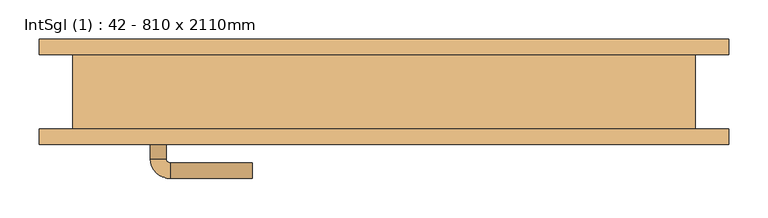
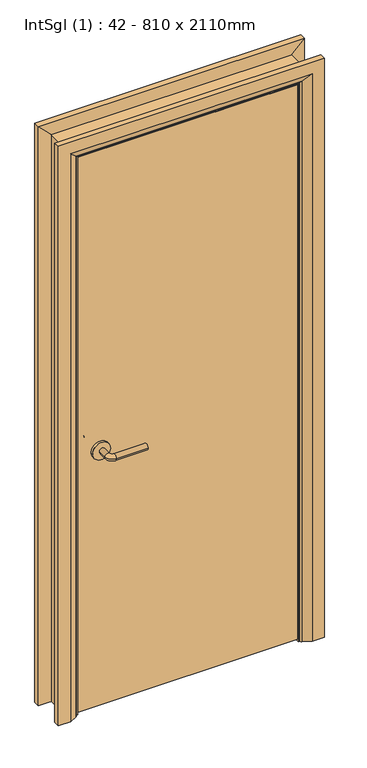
"""IFC4 building model written with IfcOpenShell, lengths in millimetres: door geometry, IntSgl (1) : 42 - 810 x 2110mm."""

from ifc_helpers import new_model, si_unit, point, frame, frame_2d, origin, place, context, project, spatial, polyline, circle_curve, ellipse_curve, trimmed, segment, composite_curve, outline, extrude, faceted_brep, source, transform, mapped, element, save
from ifc_brep_helpers import plane_surface, cylinder_surface, revolved_surface, advanced_brep


def intsgl_1_42_810_x_2110mm_b688a093(model_context):
    return source(origin(), model_context, "Body", "SolidModel", [
        advanced_brep(
        [(-298.0, -1.5, 900.0), (-278.0, -1.5, 900.0), (-298.0, 28.5, 900.0), (-278.0, 28.5, 900.0), (-273.0, 33.5, 900.0), (-273.0, 53.5, 900.0), (-168.0, 53.5, 900.0), (-168.0, 33.5, 900.0)],
        [
            (0, 1, circle_curve(frame((-288.0, -1.5, 900.0), z_axis=(0.0, -1.0, 0.0), x_axis=(1.0, 0.0, 0.0)), 10.0)),
            (1, 0, circle_curve(frame((-288.0, -1.5, 900.0), z_axis=(0.0, -1.0, 0.0), x_axis=(1.0, 0.0, 0.0)), 10.0)),
            (0, 2),
            (2, 3, circle_curve(frame((-288.0, 28.5, 900.0), z_axis=(0.0, -1.0, 0.0), x_axis=(1.0, 0.0, 0.0)), 10.0)),
            (3, 1),
            (3, 2, circle_curve(frame((-288.0, 28.5, 900.0), z_axis=(0.0, -1.0, 0.0), x_axis=(1.0, 0.0, 0.0)), 10.0)),
            (4, 3, circle_curve(frame((-273.0, 28.5, 900.0), z_axis=(0.0, 0.0, 1.0), x_axis=(-1.0, 0.0, 0.0)), 5.0)),
            (2, 5, circle_curve(frame((-273.0, 28.5, 900.0), z_axis=(0.0, 0.0, -1.0), x_axis=(-1.0, 0.0, 0.0)), 25.0)),
            (5, 4, circle_curve(frame((-273.0, 43.5, 900.0), z_axis=(-1.0, 0.0, 0.0), x_axis=(0.0, -1.0, 0.0)), 10.0)),
            (4, 5, circle_curve(frame((-273.0, 43.5, 900.0), z_axis=(-1.0, 0.0, 0.0), x_axis=(0.0, -1.0, 0.0)), 10.0)),
            (6, 7, circle_curve(frame((-168.0, 43.5, 900.0), z_axis=(1.0, 0.0, 0.0), x_axis=(0.0, -1.0, 0.0)), 10.0)),
            (7, 6, circle_curve(frame((-168.0, 43.5, 900.0), z_axis=(1.0, 0.0, 0.0), x_axis=(0.0, -1.0, 0.0)), 10.0)),
            (5, 6),
            (7, 4),
        ],
        [
            plane_surface(frame((-288.0, -1.5, 900.0), z_axis=(0.0, -1.0, 0.0), x_axis=(0.0, 0.0, 1.0))),
            cylinder_surface(frame((-288.0, -1.5, 900.0), z_axis=(0.0, -1.0, 0.0), x_axis=(1.0, 0.0, 0.0)), 10.0),
            revolved_surface(trimmed(ellipse_curve(frame((-288.0, 28.5, 900.0), z_axis=(0.0, -1.0, 0.0), x_axis=(1.0, 0.0, 0.0)), 10.0, 10.0), [point((-298.0, 28.5, 900.0))], [point((-278.0, 28.5, 900.0))], True, "CARTESIAN"), (-273.0, 28.5, 900.0), (0.0, 0.0, -1.0)),
            revolved_surface(trimmed(ellipse_curve(frame((-288.0, 28.5, 900.0), z_axis=(0.0, -1.0, 0.0), x_axis=(1.0, 0.0, 0.0)), 10.0, 10.0), [point((-278.0, 28.5, 900.0))], [point((-298.0, 28.5, 900.0))], True, "CARTESIAN"), (-273.0, 28.5, 900.0), (0.0, 0.0, -1.0)),
            plane_surface(frame((-168.0, 43.5, 900.0), z_axis=(1.0, 0.0, 0.0), x_axis=(0.0, 0.0, 1.0))),
            cylinder_surface(frame((-273.0, 43.5, 900.0), z_axis=(-1.0, 0.0, 0.0), x_axis=(0.0, -1.0, 0.0)), 10.0),
        ],
        [
            (0, [[1, 2]]),
            (1, [[-1, 3, 4, 5]]),
            (1, [[-2, -5, 6, -3]]),
            (2, [[7, -4, 8, 9]]),
            (3, [[-8, -6, -7, 10]]),
            (4, [[11, 12]]),
            (5, [[-9, 13, -12, 14]]),
            (5, [[-10, -14, -11, -13]]),
        ],
    ),
        extrude(outline(composite_curve([segment(trimmed(circle_curve(frame_2d((900.0, -290.5)), 30.0), [point((900.0, -320.5))], [point((900.0, -260.5))], False, "CARTESIAN"), True, "CONTINUOUS"), segment(trimmed(circle_curve(frame_2d((900.0, -290.5)), 30.0), [point((900.0, -260.5))], [point((900.0, -320.5))], False, "CARTESIAN"), True, "CONTINUOUS")], self_intersect=False)), frame((0.0, -9.5, 0.0), z_axis=(0.0, 1.0, 0.0), x_axis=(0.0, 0.0, 1.0)), (0.0, 0.0, 1.0), 8.0),
        advanced_brep(
        [(-298.0, -55.5, 900.0), (-278.0, -55.5, 900.0), (-278.0, -85.5, 900.0), (-298.0, -85.5, 900.0), (-273.0, -90.5, 900.0), (-273.0, -110.5, 900.0), (-168.0, -110.5, 900.0), (-168.0, -90.5, 900.0)],
        [
            (0, 1, circle_curve(frame((-288.0, -55.5, 900.0), z_axis=(0.0, 1.0, 0.0), x_axis=(1.0, 0.0, 0.0)), 10.0)),
            (1, 0, circle_curve(frame((-288.0, -55.5, 900.0), z_axis=(0.0, 1.0, 0.0), x_axis=(1.0, 0.0, 0.0)), 10.0)),
            (1, 2),
            (2, 3, circle_curve(frame((-288.0, -85.5, 900.0), z_axis=(0.0, 1.0, 0.0), x_axis=(1.0, 0.0, 0.0)), 10.0)),
            (3, 0),
            (3, 2, circle_curve(frame((-288.0, -85.5, 900.0), z_axis=(0.0, 1.0, 0.0), x_axis=(1.0, 0.0, 0.0)), 10.0)),
            (4, 5, circle_curve(frame((-273.0, -100.5, 900.0), z_axis=(-1.0, 0.0, 0.0), x_axis=(0.0, 1.0, 0.0)), 10.0)),
            (5, 3, circle_curve(frame((-273.0, -85.5, 900.0), z_axis=(0.0, 0.0, -1.0), x_axis=(-1.0, 0.0, 0.0)), 25.0)),
            (2, 4, circle_curve(frame((-273.0, -85.5, 900.0), z_axis=(0.0, 0.0, 1.0), x_axis=(-1.0, 0.0, 0.0)), 5.0)),
            (5, 4, circle_curve(frame((-273.0, -100.5, 900.0), z_axis=(-1.0, 0.0, 0.0), x_axis=(0.0, 1.0, 0.0)), 10.0)),
            (6, 7, circle_curve(frame((-168.0, -100.5, 900.0), z_axis=(1.0, 0.0, 0.0), x_axis=(0.0, 1.0, 0.0)), 10.0)),
            (7, 6, circle_curve(frame((-168.0, -100.5, 900.0), z_axis=(1.0, 0.0, 0.0), x_axis=(0.0, 1.0, 0.0)), 10.0)),
            (4, 7),
            (6, 5),
        ],
        [
            plane_surface(frame((-288.0, -55.5, 900.0), z_axis=(0.0, 1.0, 0.0), x_axis=(0.0, 0.0, 1.0))),
            cylinder_surface(frame((-288.0, -55.5, 900.0), z_axis=(0.0, 1.0, 0.0), x_axis=(1.0, 0.0, 0.0)), 10.0),
            revolved_surface(trimmed(ellipse_curve(frame((-288.0, -85.5, 900.0), z_axis=(0.0, -1.0, 0.0), x_axis=(1.0, 0.0, 0.0)), 10.0, 10.0), [point((-298.0, -85.5, 900.0))], [point((-278.0, -85.5, 900.0))], True, "CARTESIAN"), (-273.0, -85.5, 900.0), (0.0, 0.0, -1.0)),
            revolved_surface(trimmed(ellipse_curve(frame((-288.0, -85.5, 900.0), z_axis=(0.0, -1.0, 0.0), x_axis=(1.0, 0.0, 0.0)), 10.0, 10.0), [point((-278.0, -85.5, 900.0))], [point((-298.0, -85.5, 900.0))], True, "CARTESIAN"), (-273.0, -85.5, 900.0), (0.0, 0.0, -1.0)),
            plane_surface(frame((-168.0, -100.5, 900.0), z_axis=(1.0, 0.0, 0.0), x_axis=(0.0, 0.0, 1.0))),
            cylinder_surface(frame((-273.0, -100.5, 900.0), z_axis=(-1.0, 0.0, 0.0), x_axis=(0.0, 1.0, 0.0)), 10.0),
        ],
        [
            (0, [[1, 2]]),
            (1, [[3, 4, 5, -2]]),
            (1, [[-5, 6, -3, -1]]),
            (2, [[7, 8, -4, 9]]),
            (3, [[10, -9, -6, -8]]),
            (4, [[11, 12]]),
            (5, [[13, -11, 14, -7]]),
            (5, [[-14, -12, -13, -10]]),
        ],
    ),
        extrude(outline(composite_curve([segment(trimmed(circle_curve(frame_2d((900.0, -290.5)), 30.0), [point((900.0, -320.5))], [point((900.0, -260.5))], False, "CARTESIAN"), True, "CONTINUOUS"), segment(trimmed(circle_curve(frame_2d((900.0, -290.5)), 30.0), [point((900.0, -260.5))], [point((900.0, -320.5))], False, "CARTESIAN"), True, "CONTINUOUS")], self_intersect=False)), frame((0.0, -55.5, 0.0), z_axis=(0.0, 1.0, 0.0), x_axis=(0.0, 0.0, 1.0)), (0.0, 0.0, 1.0), 8.0),
        extrude(outline(polyline([(363.0, -9.5), (363.0, -47.5), (-363.0, -47.5), (-363.0, -9.5), (363.0, -9.5)])), frame((0.0, 0.0, 8.0), z_axis=(0.0, 0.0, 1.0), x_axis=(1.0, 0.0, 0.0)), (0.0, 0.0, 1.0), 1939.0),
        advanced_brep(
        [(440.0, -67.5, 0.0), (400.0, -67.5, 0.0), (374.0, -53.5, 0.0), (370.0, -47.5, 0.0), (440.0, -47.5, 0.0), (440.0, -47.5, 2024.0), (440.0, -67.5, 2024.0), (370.0, -47.5, 1954.0), (-370.0, -47.5, 1954.0), (-370.0, -47.5, 0.0), (-440.0, -47.5, 0.0), (-440.0, -47.5, 2024.0), (374.0, -53.5, 1958.0), (400.0, -67.5, 1984.0), (-440.0, -67.5, 2024.0), (-440.0, -67.5, 0.0), (-400.0, -67.5, 0.0), (-400.0, -67.5, 1984.0), (-374.0, -53.5, 1958.0), (-374.0, -53.5, 0.0)],
        [
            (0, 1),
            (1, 2),
            (2, 3, circle_curve(frame((378.0, -46.5, 0.0), z_axis=(0.0, 0.0, -1.0), x_axis=(1.0, 0.0, 0.0)), 8.0622577)),
            (3, 4),
            (4, 0),
            (4, 5),
            (5, 6),
            (6, 0),
            (3, 7),
            (7, 8),
            (8, 9),
            (9, 10),
            (10, 11),
            (11, 5),
            (2, 12),
            (12, 7, ellipse_curve(frame((378.0, -46.5, 1962.0), z_axis=(0.7071067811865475, 0.0, -0.7071067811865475), x_axis=(-0.7071067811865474, 0.0, -0.7071067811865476)), 11.4017543, 8.0622577)),
            (1, 13),
            (13, 12),
            (6, 14),
            (14, 15),
            (15, 16),
            (16, 17),
            (17, 13),
            (11, 14),
            (12, 18),
            (18, 8, ellipse_curve(frame((-378.0, -46.5, 1962.0), z_axis=(0.7071067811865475, 0.0, 0.7071067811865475), x_axis=(0.7071067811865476, 0.0, -0.7071067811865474)), 11.4017543, 8.0622577)),
            (17, 18),
            (15, 10),
            (9, 19, circle_curve(frame((-378.0, -46.5, 0.0), z_axis=(0.0, 0.0, -1.0), x_axis=(-1.0, 0.0, 0.0)), 8.0622577)),
            (19, 16),
            (18, 19),
        ],
        [
            plane_surface(frame((370.0, -47.5, 0.0), z_axis=(0.0, 0.0, -1.0), x_axis=(0.0, 1.0, 0.0))),
            plane_surface(frame((440.0, -67.5, 0.0), z_axis=(1.0, 0.0, 0.0), x_axis=(0.0, 0.0, 1.0))),
            plane_surface(frame((440.0, -47.5, 0.0), z_axis=(0.0, 1.0, 0.0), x_axis=(0.0, 0.0, 1.0))),
            cylinder_surface(frame((378.0, -46.5, 0.0), z_axis=(0.0, 0.0, -1.0), x_axis=(1.0, 0.0, 0.0)), 8.0622577),
            plane_surface(frame((374.0, -53.5, 0.0), z_axis=(-0.4740998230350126, -0.880471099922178, 0.0), x_axis=(0.0, 0.0, 1.0))),
            plane_surface(frame((400.0, -67.5, 0.0), z_axis=(0.0, -1.0, 0.0), x_axis=(0.0, 0.0, 1.0))),
            plane_surface(frame((440.0, -67.5, 2024.0), z_axis=(0.0, 0.0, 1.0), x_axis=(-1.0, 0.0, 0.0))),
            cylinder_surface(frame((370.0, -46.5, 1962.0), z_axis=(1.0, 0.0, 0.0), x_axis=(0.0, 0.0, 1.0)), 8.0622577),
            plane_surface(frame((374.0, -53.5, 1958.0), z_axis=(0.0, -0.8804710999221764, -0.4740998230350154), x_axis=(-1.0, 0.0, 0.0))),
            plane_surface(frame((-370.0, -47.5, 0.0), z_axis=(0.0, 0.0, -1.0), x_axis=(0.0, 1.0, 0.0))),
            plane_surface(frame((-440.0, -67.5, 2024.0), z_axis=(-1.0, 0.0, 0.0), x_axis=(0.0, 0.0, -1.0))),
            cylinder_surface(frame((-378.0, -46.5, 1954.0), z_axis=(0.0, 0.0, 1.0), x_axis=(-1.0, 0.0, 0.0)), 8.0622577),
            plane_surface(frame((-374.0, -53.5, 1958.0), z_axis=(0.47409982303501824, -0.8804710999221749, 0.0), x_axis=(0.0, 0.0, -1.0))),
        ],
        [
            (0, [[1, 2, 3, 4, 5]]),
            (1, [[6, 7, 8, -5]]),
            (2, [[9, 10, 11, 12, 13, 14, -6, -4]]),
            (3, [[15, 16, -9, -3]]),
            (4, [[17, 18, -15, -2]]),
            (5, [[-8, 19, 20, 21, 22, 23, -17, -1]]),
            (6, [[-14, 24, -19, -7]]),
            (7, [[25, 26, -10, -16]]),
            (8, [[-23, 27, -25, -18]]),
            (9, [[28, -12, 29, 30, -21]]),
            (10, [[-13, -28, -20, -24]]),
            (11, [[31, -29, -11, -26]]),
            (12, [[-22, -30, -31, -27]]),
        ],
    ),
        extrude(outline(polyline([(0.0, -346.0), (1930.0, -346.0), (1930.0, 346.0), (0.0, 346.0), (0.0, 365.0), (1949.0, 365.0), (1949.0, -365.0), (0.0, -365.0), (0.0, -346.0)])), frame((0.0, -7.5, 0.0), z_axis=(0.0, 1.0, 0.0), x_axis=(0.0, 0.0, 1.0)), (0.0, 0.0, 1.0), 32.0),
        advanced_brep(
        [(-440.0, 67.5, 0.0), (-400.0, 67.5, 0.0), (-374.0, 53.5, 0.0), (-370.0, 47.5, 0.0), (-440.0, 47.5, 0.0), (-440.0, 47.5, 2024.0), (-440.0, 67.5, 2024.0), (-370.0, 47.5, 1954.0), (-374.0, 53.5, 1958.0), (-400.0, 67.5, 1984.0), (440.0, 47.5, 2024.0), (440.0, 67.5, 2024.0), (370.0, 47.5, 1954.0), (374.0, 53.5, 1958.0), (400.0, 67.5, 1984.0), (440.0, 67.5, 0.0), (440.0, 47.5, 0.0), (370.0, 47.5, 0.0), (374.0, 53.5, 0.0), (400.0, 67.5, 0.0)],
        [
            (0, 1),
            (1, 2),
            (2, 3, circle_curve(frame((-378.0, 46.5, 0.0), z_axis=(0.0, 0.0, -1.0), x_axis=(-1.0, 0.0, 0.0)), 8.0622577)),
            (3, 4),
            (4, 0),
            (4, 5),
            (5, 6),
            (6, 0),
            (3, 7),
            (7, 5),
            (2, 8),
            (8, 7, ellipse_curve(frame((-378.0, 46.5, 1962.0), z_axis=(-0.7071067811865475, 0.0, -0.7071067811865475), x_axis=(0.7071067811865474, 0.0, -0.7071067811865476)), 11.4017543, 8.0622577)),
            (1, 9),
            (9, 8),
            (6, 9),
            (5, 10),
            (10, 11),
            (11, 6),
            (7, 12),
            (12, 10),
            (8, 13),
            (13, 12, ellipse_curve(frame((378.0, 46.5, 1962.0), z_axis=(-0.7071067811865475, 0.0, 0.7071067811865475), x_axis=(-0.7071067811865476, 0.0, -0.7071067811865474)), 11.4017543, 8.0622577)),
            (9, 14),
            (14, 13),
            (11, 14),
            (15, 16),
            (16, 17),
            (17, 18, circle_curve(frame((378.0, 46.5, 0.0), z_axis=(0.0, 0.0, -1.0), x_axis=(1.0, 0.0, 0.0)), 8.0622577)),
            (18, 19),
            (19, 15),
            (10, 16),
            (15, 11),
            (12, 17),
            (13, 18),
            (14, 19),
        ],
        [
            plane_surface(frame((-370.0, 120.3010989, 0.0), z_axis=(0.0, 0.0, -1.0), x_axis=(1.0, 0.0, 0.0))),
            plane_surface(frame((-440.0, 67.5, 0.0), z_axis=(-1.0, 0.0, 0.0), x_axis=(0.0, 0.0, 1.0))),
            plane_surface(frame((-440.0, 47.5, 0.0), z_axis=(0.0, -1.0, 0.0), x_axis=(0.0, 0.0, 1.0))),
            cylinder_surface(frame((-378.0, 46.5, 0.0), z_axis=(0.0, 0.0, -1.0), x_axis=(-1.0, 0.0, 0.0)), 8.0622577),
            plane_surface(frame((-374.0, 53.5, 0.0), z_axis=(0.4740998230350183, 0.8804710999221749, 0.0), x_axis=(0.0, 0.0, 1.0))),
            plane_surface(frame((-400.0, 67.5, 0.0), z_axis=(0.0, 1.0, 0.0), x_axis=(0.0, 0.0, 1.0))),
            plane_surface(frame((-440.0, 67.5, 2024.0), z_axis=(0.0, 0.0, 1.0), x_axis=(1.0, 0.0, 0.0))),
            plane_surface(frame((-440.0, 47.5, 2024.0), z_axis=(0.0, -1.0, 0.0), x_axis=(1.0, 0.0, 0.0))),
            cylinder_surface(frame((-370.0, 46.5, 1962.0), z_axis=(-1.0, 0.0, 0.0), x_axis=(0.0, 0.0, 1.0)), 8.0622577),
            plane_surface(frame((-374.0, 53.5, 1958.0), z_axis=(0.0, 0.8804710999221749, -0.4740998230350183), x_axis=(1.0, 0.0, 0.0))),
            plane_surface(frame((-400.0, 67.5, 1984.0), z_axis=(0.0, 1.0, 0.0), x_axis=(1.0, 0.0, 0.0))),
            plane_surface(frame((370.0, 120.3010989, 0.0), z_axis=(0.0, 0.0, -1.0), x_axis=(-1.0, 0.0, 0.0))),
            plane_surface(frame((440.0, 67.5, 2024.0), z_axis=(1.0, 0.0, 0.0), x_axis=(0.0, 0.0, -1.0))),
            plane_surface(frame((440.0, 47.5, 2024.0), z_axis=(0.0, -1.0, 0.0), x_axis=(0.0, 0.0, -1.0))),
            cylinder_surface(frame((378.0, 46.5, 1954.0), z_axis=(0.0, 0.0, 1.0), x_axis=(1.0, 0.0, 0.0)), 8.0622577),
            plane_surface(frame((374.0, 53.5, 1958.0), z_axis=(-0.4740998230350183, 0.8804710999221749, 0.0), x_axis=(0.0, 0.0, -1.0))),
            plane_surface(frame((400.0, 67.5, 1984.0), z_axis=(0.0, 1.0, 0.0), x_axis=(0.0, 0.0, -1.0))),
        ],
        [
            (0, [[1, 2, 3, 4, 5]]),
            (1, [[6, 7, 8, -5]]),
            (2, [[9, 10, -6, -4]]),
            (3, [[11, 12, -9, -3]]),
            (4, [[13, 14, -11, -2]]),
            (5, [[-8, 15, -13, -1]]),
            (6, [[16, 17, 18, -7]]),
            (7, [[19, 20, -16, -10]]),
            (8, [[21, 22, -19, -12]]),
            (9, [[23, 24, -21, -14]]),
            (10, [[-18, 25, -23, -15]]),
            (11, [[26, 27, 28, 29, 30]]),
            (12, [[31, -26, 32, -17]]),
            (13, [[33, -27, -31, -20]]),
            (14, [[34, -28, -33, -22]]),
            (15, [[35, -29, -34, -24]]),
            (16, [[-32, -30, -35, -25]]),
        ],
    ),
        faceted_brep([(-365.0, -47.5, 0.0), (-397.0, -47.5, 0.0), (-397.0, 47.5, 0.0), (-365.0, 47.5, 0.0), (-365.0, 47.5, 1949.0), (-365.0, -47.5, 1949.0), (-397.0, 47.5, 1981.0), (-397.0, -47.5, 1981.0), (365.0, 47.5, 1949.0), (365.0, -47.5, 1949.0), (397.0, 47.5, 1981.0), (397.0, -47.5, 1981.0), (365.0, -47.5, 0.0), (365.0, 47.5, 0.0), (397.0, 47.5, 0.0), (397.0, -47.5, 0.0)], [[[0, 1, 2, 3]], [[3, 4, 5, 0]], [[2, 6, 4, 3]], [[1, 7, 6, 2]], [[0, 5, 7, 1]], [[4, 8, 9, 5]], [[6, 10, 8, 4]], [[7, 11, 10, 6]], [[5, 9, 11, 7]], [[12, 13, 14, 15]], [[8, 13, 12, 9]], [[10, 14, 13, 8]], [[11, 15, 14, 10]], [[9, 12, 15, 11]]]),
    ])


if __name__ == "__main__":
    model = new_model("IFC4")
    model_context = context("Model", 3, world=origin())
    ifc_project = project(units=[si_unit("LENGTHUNIT", "METRE", prefix="MILLI")], contexts=[model_context])
    site = spatial("IfcSite", under=ifc_project)
    building = spatial("IfcBuilding", under=site)
    placement = place(None, origin())
    intsgl_1_42_810_x_2110mm_shape = intsgl_1_42_810_x_2110mm_b688a093(model_context)
    element("IfcDoor", 1, ObjectType="IntSgl (1) : 42 - 810 x 2110mm", at=placement, inside=building, context=model_context, shape_type="MappedRepresentation", body=[
        mapped(intsgl_1_42_810_x_2110mm_shape, transform((0.0, 0.0, 0.0), x_axis=(1.0, 0.0, 0.0), y_axis=(0.0, 1.0, 0.0), z_axis=(0.0, 0.0, 1.0))),
    ])
    save(model, "model.ifc")
